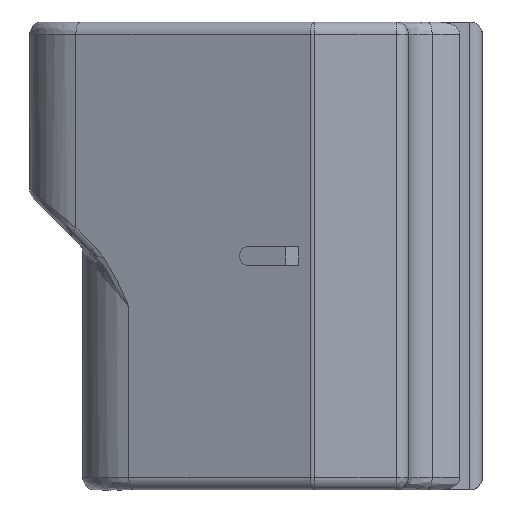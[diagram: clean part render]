
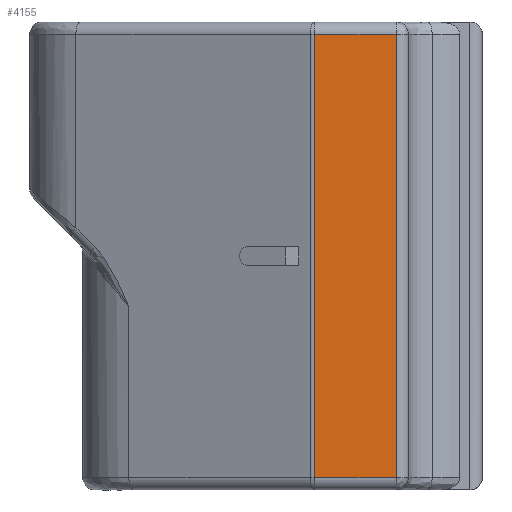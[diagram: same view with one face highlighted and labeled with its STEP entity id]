
A CAD part, left-side view. The second image highlights one B-rep face of the part: STEP entity #4155.
In plain terms, the highlighted planar face has unit normal (-1, 0, 0).
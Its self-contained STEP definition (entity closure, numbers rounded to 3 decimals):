
#56 = CARTESIAN_POINT ( 'NONE',  ( -31.835, -9.35, -37. ) ) ;
#146 = CARTESIAN_POINT ( 'NONE',  ( -31.835, -9.35, -1. ) ) ;
#261 = VECTOR ( 'NONE', #445, 1000. ) ;
#331 = VECTOR ( 'NONE', #3057, 1000. ) ;
#445 = DIRECTION ( 'NONE',  ( 0., -1., 0. ) ) ;
#520 = EDGE_CURVE ( 'NONE', #1924, #828, #3878, .T. ) ;
#664 = ORIENTED_EDGE ( 'NONE', *, *, #2323, .F. ) ;
#713 = EDGE_CURVE ( 'NONE', #3112, #1924, #1677, .T. ) ;
#727 = DIRECTION ( 'NONE',  ( 0., 1., 0. ) ) ;
#828 = VERTEX_POINT ( 'NONE', #146 ) ;
#847 = AXIS2_PLACEMENT_3D ( 'NONE', #3714, #3096, #4141 ) ;
#899 = LINE ( 'NONE', #4365, #4096 ) ;
#1071 = CARTESIAN_POINT ( 'NONE',  ( -31.835, -10.35, -37. ) ) ;
#1371 = LINE ( 'NONE', #1071, #1669 ) ;
#1494 = CARTESIAN_POINT ( 'NONE',  ( -31.835, -2.757, -1. ) ) ;
#1669 = VECTOR ( 'NONE', #727, 1000. ) ;
#1677 = LINE ( 'NONE', #4124, #331 ) ;
#1924 = VERTEX_POINT ( 'NONE', #1494 ) ;
#2029 = PLANE ( 'NONE',  #847 ) ;
#2170 = CARTESIAN_POINT ( 'NONE',  ( -31.835, -10.35, -1. ) ) ;
#2241 = ORIENTED_EDGE ( 'NONE', *, *, #713, .F. ) ;
#2301 = DIRECTION ( 'NONE',  ( 0., 0., -1. ) ) ;
#2323 = EDGE_CURVE ( 'NONE', #828, #3978, #899, .T. ) ;
#2765 = ORIENTED_EDGE ( 'NONE', *, *, #520, .F. ) ;
#3057 = DIRECTION ( 'NONE',  ( 0., 0., 1. ) ) ;
#3096 = DIRECTION ( 'NONE',  ( 1., 0., 0. ) ) ;
#3112 = VERTEX_POINT ( 'NONE', #3838 ) ;
#3547 = EDGE_CURVE ( 'NONE', #3978, #3112, #1371, .T. ) ;
#3714 = CARTESIAN_POINT ( 'NONE',  ( -31.835, -10.35, -38. ) ) ;
#3838 = CARTESIAN_POINT ( 'NONE',  ( -31.835, -2.757, -37. ) ) ;
#3878 = LINE ( 'NONE', #2170, #261 ) ;
#3978 = VERTEX_POINT ( 'NONE', #56 ) ;
#4005 = EDGE_LOOP ( 'NONE', ( #2765, #2241, #4094, #664 ) ) ;
#4059 = FACE_OUTER_BOUND ( 'NONE', #4005, .T. ) ;
#4094 = ORIENTED_EDGE ( 'NONE', *, *, #3547, .F. ) ;
#4096 = VECTOR ( 'NONE', #2301, 1000. ) ;
#4124 = CARTESIAN_POINT ( 'NONE',  ( -31.835, -2.757, -38. ) ) ;
#4141 = DIRECTION ( 'NONE',  ( 0., 0., -1. ) ) ;
#4155 = ADVANCED_FACE ( 'NONE', ( #4059 ), #2029, .F. ) ;
#4365 = CARTESIAN_POINT ( 'NONE',  ( -31.835, -9.35, -38. ) ) ;
